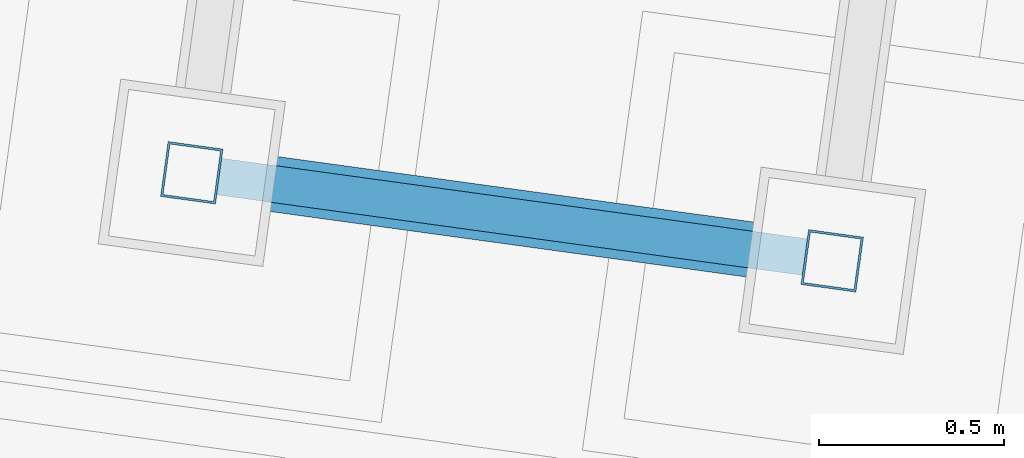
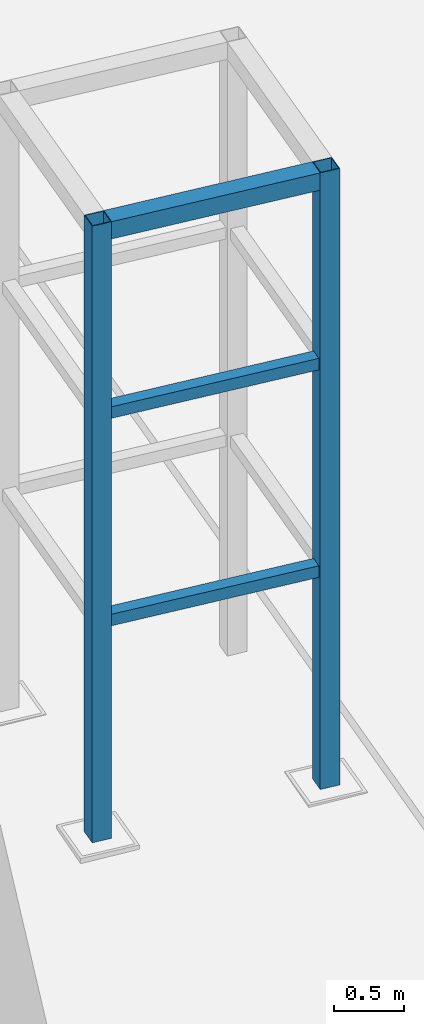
# Not in any storey, part 8 of 75: 5 members.
"""IFC4 model written with IfcOpenShell, lengths in metres."""

from ifc_helpers import new_model, si_unit, direction, origin, origin_with_axes, place, context, subcontext, project, spatial, triangles, element, save


model = new_model("IFC4")

# Units and contexts
model_context = context("Model", 3, precision=1e-05, world=origin_with_axes(), true_north=direction((0.0, 1.0)))
body_context = subcontext(model_context, "Body", "Model", "MODEL_VIEW")
ifc_project = project(units=[si_unit("AREAUNIT", "SQUARE_METRE"), si_unit("VOLUMEUNIT", "CUBIC_METRE"), si_unit("LENGTHUNIT", "METRE")], contexts=[model_context])

# Site
site_placement = place(None, origin_with_axes())
site = spatial("IfcSite", under=ifc_project, at=site_placement, Name="Parcela industrial Jinhong")

# Members
member_1_placement = place(None, origin())
element("IfcMember", 1, at=member_1_placement, inside=site, Name="SL1201 · columna 1 · tubo 150×150×6 mm", context=body_context, shape_type="Tessellation", body=[
    triangles([(60.423170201, 50.663978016, 1.3), (60.423170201, 50.663978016, 6.65), (60.571772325, 50.643547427, 1.3), (60.571772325, 50.643547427, 6.65), (60.422352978, 50.658033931, 1.3), (60.422352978, 50.658033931, 6.65), (60.570955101, 50.637603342, 1.3), (60.570955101, 50.637603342, 6.65)], [[2, 4, 1], [5, 2, 1], [1, 4, 3], [3, 5, 1], [2, 8, 4], [6, 2, 5], [6, 8, 2], [4, 8, 3], [7, 5, 3], [3, 8, 7], [7, 6, 5], [8, 6, 7]], closed=True),
    triangles([(60.442783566, 50.806636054, 1.3), (60.442783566, 50.806636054, 6.65), (60.59138569, 50.786205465, 1.3), (60.59138569, 50.786205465, 6.65), (60.441966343, 50.800691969, 1.3), (60.441966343, 50.800691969, 6.65), (60.590568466, 50.78026138, 1.3), (60.590568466, 50.78026138, 6.65)], [[2, 4, 1], [5, 2, 1], [1, 4, 3], [3, 5, 1], [2, 8, 4], [6, 2, 5], [6, 8, 2], [4, 8, 3], [7, 5, 3], [3, 8, 7], [7, 6, 5], [8, 6, 7]], closed=True),
    triangles([(60.584624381, 50.781078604, 1.3), (60.584624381, 50.781078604, 6.65), (60.590568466, 50.78026138, 1.3), (60.590568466, 50.78026138, 6.65), (60.56582824, 50.644364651, 1.3), (60.56582824, 50.644364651, 6.65), (60.571772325, 50.643547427, 1.3), (60.571772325, 50.643547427, 6.65)], [[2, 4, 1], [5, 2, 1], [1, 4, 3], [3, 5, 1], [2, 8, 4], [6, 2, 5], [6, 8, 2], [4, 8, 3], [7, 5, 3], [3, 8, 7], [7, 6, 5], [8, 6, 7]], closed=True),
    triangles([(60.441966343, 50.800691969, 1.3), (60.441966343, 50.800691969, 6.65), (60.447910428, 50.799874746, 1.3), (60.447910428, 50.799874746, 6.65), (60.423170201, 50.663978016, 1.3), (60.423170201, 50.663978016, 6.65), (60.429114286, 50.663160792, 1.3), (60.429114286, 50.663160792, 6.65)], [[2, 4, 1], [5, 2, 1], [1, 4, 3], [3, 5, 1], [2, 8, 4], [6, 2, 5], [6, 8, 2], [4, 8, 3], [7, 5, 3], [3, 8, 7], [7, 6, 5], [8, 6, 7]], closed=True),
])
member_2_placement = place(None, origin())
element("IfcMember", 2, at=member_2_placement, inside=site, Name="SL1201 · columna 2 · tubo 150×150×6 mm", context=body_context, shape_type="Tessellation", body=[
    triangles([(62.156861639, 50.425621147, 1.3), (62.156861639, 50.425621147, 6.65), (62.305463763, 50.405190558, 1.3), (62.305463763, 50.405190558, 6.65), (62.156044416, 50.419677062, 1.3), (62.156044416, 50.419677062, 6.65), (62.304646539, 50.399246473, 1.3), (62.304646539, 50.399246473, 6.65)], [[2, 4, 1], [5, 2, 1], [1, 4, 3], [3, 5, 1], [2, 8, 4], [6, 2, 5], [6, 8, 2], [4, 8, 3], [7, 5, 3], [3, 8, 7], [7, 6, 5], [8, 6, 7]], closed=True),
    triangles([(62.176475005, 50.568279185, 1.3), (62.176475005, 50.568279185, 6.65), (62.325077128, 50.547848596, 1.3), (62.325077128, 50.547848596, 6.65), (62.175657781, 50.5623351, 1.3), (62.175657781, 50.5623351, 6.65), (62.324259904, 50.541904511, 1.3), (62.324259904, 50.541904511, 6.65)], [[2, 4, 1], [5, 2, 1], [1, 4, 3], [3, 5, 1], [2, 8, 4], [6, 2, 5], [6, 8, 2], [4, 8, 3], [7, 5, 3], [3, 8, 7], [7, 6, 5], [8, 6, 7]], closed=True),
    triangles([(62.318315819, 50.542721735, 1.3), (62.318315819, 50.542721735, 6.65), (62.324259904, 50.541904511, 1.3), (62.324259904, 50.541904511, 6.65), (62.299519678, 50.406007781, 1.3), (62.299519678, 50.406007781, 6.65), (62.305463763, 50.405190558, 1.3), (62.305463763, 50.405190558, 6.65)], [[2, 4, 1], [5, 2, 1], [1, 4, 3], [3, 5, 1], [2, 8, 4], [6, 2, 5], [6, 8, 2], [4, 8, 3], [7, 5, 3], [3, 8, 7], [7, 6, 5], [8, 6, 7]], closed=True),
    triangles([(62.175657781, 50.5623351, 1.3), (62.175657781, 50.5623351, 6.65), (62.181601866, 50.561517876, 1.3), (62.181601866, 50.561517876, 6.65), (62.156861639, 50.425621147, 1.3), (62.156861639, 50.425621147, 6.65), (62.162805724, 50.424803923, 1.3), (62.162805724, 50.424803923, 6.65)], [[2, 4, 1], [5, 2, 1], [1, 4, 3], [3, 5, 1], [2, 8, 4], [6, 2, 5], [6, 8, 2], [4, 8, 3], [7, 5, 3], [3, 8, 7], [7, 6, 5], [8, 6, 7]], closed=True),
])
member_3_placement = place(None, origin())
element("IfcMember", 3, at=member_3_placement, inside=site, Name="SL1201 · travesaño INF 1", context=body_context, shape_type="Tessellation", body=[
    triangles([(60.587299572, 50.756485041, 3.125), (62.172388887, 50.53855876, 3.125), (60.587299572, 50.756485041, 3.225), (62.172388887, 50.53855876, 3.225), (60.587980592, 50.761438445, 3.125), (62.173069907, 50.543512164, 3.125), (60.587980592, 50.761438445, 3.225), (62.173069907, 50.543512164, 3.225)], [[2, 4, 1], [5, 2, 1], [1, 4, 3], [3, 5, 1], [2, 8, 4], [6, 2, 5], [6, 8, 2], [4, 8, 3], [7, 5, 3], [3, 8, 7], [7, 6, 5], [8, 6, 7]], closed=True),
    triangles([(60.574360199, 50.662370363, 3.125), (62.159449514, 50.444444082, 3.125), (60.574360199, 50.662370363, 3.225), (62.159449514, 50.444444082, 3.225), (60.575041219, 50.667323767, 3.125), (62.160130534, 50.449397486, 3.125), (60.575041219, 50.667323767, 3.225), (62.160130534, 50.449397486, 3.225)], [[2, 4, 1], [5, 2, 1], [1, 4, 3], [3, 5, 1], [2, 8, 4], [6, 2, 5], [6, 8, 2], [4, 8, 3], [7, 5, 3], [3, 8, 7], [7, 6, 5], [8, 6, 7]], closed=True),
    triangles([(60.575041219, 50.667323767, 3.22), (62.160130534, 50.449397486, 3.22), (60.575041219, 50.667323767, 3.225), (62.160130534, 50.449397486, 3.225), (60.587299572, 50.756485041, 3.22), (62.172388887, 50.53855876, 3.22), (60.587299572, 50.756485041, 3.225), (62.172388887, 50.53855876, 3.225)], [[2, 4, 1], [5, 2, 1], [1, 4, 3], [3, 5, 1], [2, 8, 4], [6, 2, 5], [6, 8, 2], [4, 8, 3], [7, 5, 3], [3, 8, 7], [7, 6, 5], [8, 6, 7]], closed=True),
    triangles([(60.575041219, 50.667323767, 3.125), (62.160130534, 50.449397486, 3.125), (60.575041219, 50.667323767, 3.13), (62.160130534, 50.449397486, 3.13), (60.587299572, 50.756485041, 3.125), (62.172388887, 50.53855876, 3.125), (60.587299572, 50.756485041, 3.13), (62.172388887, 50.53855876, 3.13)], [[2, 4, 1], [5, 2, 1], [1, 4, 3], [3, 5, 1], [2, 8, 4], [6, 2, 5], [6, 8, 2], [4, 8, 3], [7, 5, 3], [3, 8, 7], [7, 6, 5], [8, 6, 7]], closed=True),
])
member_4_placement = place(None, origin())
element("IfcMember", 4, at=member_4_placement, inside=site, Name="SL1201 · travesaño MED 1", context=body_context, shape_type="Tessellation", body=[
    triangles([(60.587299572, 50.756485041, 4.925), (62.172388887, 50.53855876, 4.925), (60.587299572, 50.756485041, 5.025), (62.172388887, 50.53855876, 5.025), (60.587980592, 50.761438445, 4.925), (62.173069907, 50.543512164, 4.925), (60.587980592, 50.761438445, 5.025), (62.173069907, 50.543512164, 5.025)], [[2, 4, 1], [5, 2, 1], [1, 4, 3], [3, 5, 1], [2, 8, 4], [6, 2, 5], [6, 8, 2], [4, 8, 3], [7, 5, 3], [3, 8, 7], [7, 6, 5], [8, 6, 7]], closed=True),
    triangles([(60.574360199, 50.662370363, 4.925), (62.159449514, 50.444444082, 4.925), (60.574360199, 50.662370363, 5.025), (62.159449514, 50.444444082, 5.025), (60.575041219, 50.667323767, 4.925), (62.160130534, 50.449397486, 4.925), (60.575041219, 50.667323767, 5.025), (62.160130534, 50.449397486, 5.025)], [[2, 4, 1], [5, 2, 1], [1, 4, 3], [3, 5, 1], [2, 8, 4], [6, 2, 5], [6, 8, 2], [4, 8, 3], [7, 5, 3], [3, 8, 7], [7, 6, 5], [8, 6, 7]], closed=True),
    triangles([(60.575041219, 50.667323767, 5.02), (62.160130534, 50.449397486, 5.02), (60.575041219, 50.667323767, 5.025), (62.160130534, 50.449397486, 5.025), (60.587299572, 50.756485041, 5.02), (62.172388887, 50.53855876, 5.02), (60.587299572, 50.756485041, 5.025), (62.172388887, 50.53855876, 5.025)], [[2, 4, 1], [5, 2, 1], [1, 4, 3], [3, 5, 1], [2, 8, 4], [6, 2, 5], [6, 8, 2], [4, 8, 3], [7, 5, 3], [3, 8, 7], [7, 6, 5], [8, 6, 7]], closed=True),
    triangles([(60.575041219, 50.667323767, 4.925), (62.160130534, 50.449397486, 4.925), (60.575041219, 50.667323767, 4.93), (62.160130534, 50.449397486, 4.93), (60.587299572, 50.756485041, 4.925), (62.172388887, 50.53855876, 4.925), (60.587299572, 50.756485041, 4.93), (62.172388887, 50.53855876, 4.93)], [[2, 4, 1], [5, 2, 1], [1, 4, 3], [3, 5, 1], [2, 8, 4], [6, 2, 5], [6, 8, 2], [4, 8, 3], [7, 5, 3], [3, 8, 7], [7, 6, 5], [8, 6, 7]], closed=True),
])
member_5_placement = place(None, origin())
element("IfcMember", 5, at=member_5_placement, inside=site, Name="SL1201 · travesaño SUP 1", context=body_context, shape_type="Tessellation", body=[
    triangles([(60.590568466, 50.78026138, 6.5), (62.175657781, 50.5623351, 6.5), (60.590568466, 50.78026138, 6.65), (62.175657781, 50.5623351, 6.65), (60.59138569, 50.786205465, 6.5), (62.176475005, 50.568279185, 6.5), (60.59138569, 50.786205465, 6.65), (62.176475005, 50.568279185, 6.65)], [[2, 4, 1], [5, 2, 1], [1, 4, 3], [3, 5, 1], [2, 8, 4], [6, 2, 5], [6, 8, 2], [4, 8, 3], [7, 5, 3], [3, 8, 7], [7, 6, 5], [8, 6, 7]], closed=True),
    triangles([(60.570955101, 50.637603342, 6.5), (62.156044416, 50.419677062, 6.5), (60.570955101, 50.637603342, 6.65), (62.156044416, 50.419677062, 6.65), (60.571772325, 50.643547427, 6.5), (62.156861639, 50.425621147, 6.5), (60.571772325, 50.643547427, 6.65), (62.156861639, 50.425621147, 6.65)], [[2, 4, 1], [5, 2, 1], [1, 4, 3], [3, 5, 1], [2, 8, 4], [6, 2, 5], [6, 8, 2], [4, 8, 3], [7, 5, 3], [3, 8, 7], [7, 6, 5], [8, 6, 7]], closed=True),
    triangles([(60.571772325, 50.643547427, 6.644), (62.156861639, 50.425621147, 6.644), (60.571772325, 50.643547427, 6.65), (62.156861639, 50.425621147, 6.65), (60.590568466, 50.78026138, 6.644), (62.175657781, 50.5623351, 6.644), (60.590568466, 50.78026138, 6.65), (62.175657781, 50.5623351, 6.65)], [[2, 4, 1], [5, 2, 1], [1, 4, 3], [3, 5, 1], [2, 8, 4], [6, 2, 5], [6, 8, 2], [4, 8, 3], [7, 5, 3], [3, 8, 7], [7, 6, 5], [8, 6, 7]], closed=True),
    triangles([(60.571772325, 50.643547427, 6.5), (62.156861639, 50.425621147, 6.5), (60.571772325, 50.643547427, 6.506), (62.156861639, 50.425621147, 6.506), (60.590568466, 50.78026138, 6.5), (62.175657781, 50.5623351, 6.5), (60.590568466, 50.78026138, 6.506), (62.175657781, 50.5623351, 6.506)], [[2, 4, 1], [5, 2, 1], [1, 4, 3], [3, 5, 1], [2, 8, 4], [6, 2, 5], [6, 8, 2], [4, 8, 3], [7, 5, 3], [3, 8, 7], [7, 6, 5], [8, 6, 7]], closed=True),
])

save(model, "model.ifc")
